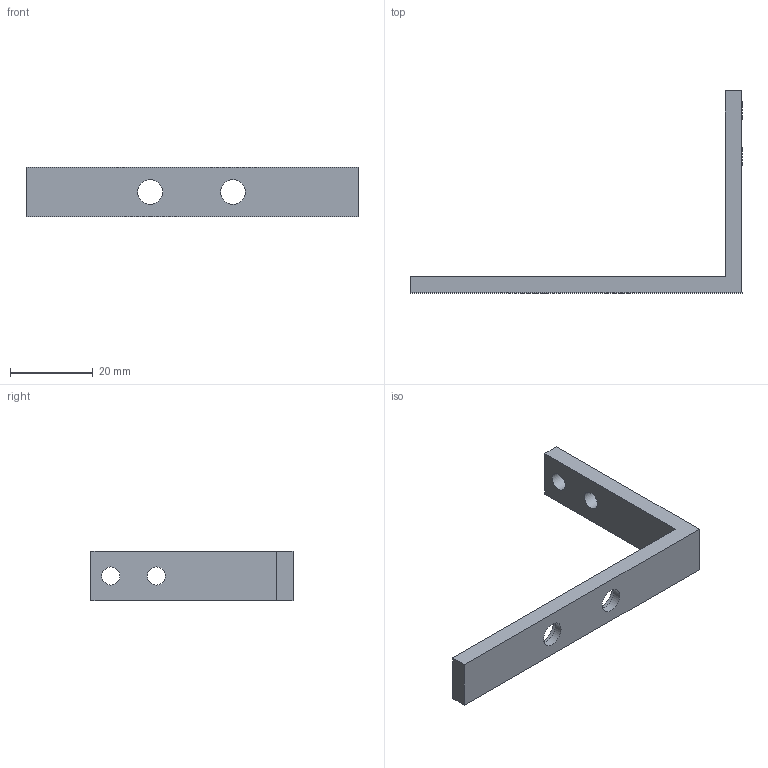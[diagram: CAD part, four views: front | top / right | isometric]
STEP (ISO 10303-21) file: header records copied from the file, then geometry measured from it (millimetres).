
FILE_DESCRIPTION(/* description */ (''),/* implementation_level */ '2;1');
FILE_NAME(/* name */ '/Users/davidflorian/Library/Mobile Documents/com~apple~CloudDocs/Vanderbilt/Papers/OTTO/Supplemental Material/3D-Printable-Components-STEP-Files/Drag-Chain-Connector-3.step',/* time_stamp */ '2020-06-30T23:33:30-05:00',/* author */ (''),/* organization */ (''),/* preprocessor_version */ 'ST-DEVELOPER v18.1',/* originating_system */ 'Autodesk Translation Framework v9.3.0.1241',/* authorisation */ '');
FILE_SCHEMA (('AUTOMOTIVE_DESIGN { 1 0 10303 214 3 1 1 }'));
Length unit declared in the file: millimetre
Products named in the file (1): drag chain y-axis
Bounding box: 80.2 x 48.8 x 12 mm (x, y, z)
Volume: 5499.4 mm3; surface area: 4223.7 mm2
Topology: 1 solids, 1 shells, 16 faces, 36 edges, 24 vertices
Faces by surface type: plane 10, cylinder 6
Full cylindrical faces by diameter (mm): 4.4 x2, 6 x2, 9.2 x2
Entity records: 501 total; most frequent: DIRECTION 82, CARTESIAN_POINT 77, ORIENTED_EDGE 72, EDGE_CURVE 36, AXIS2_PLACEMENT_3D 29, EDGE_LOOP 26, LINE 24, VECTOR 24
